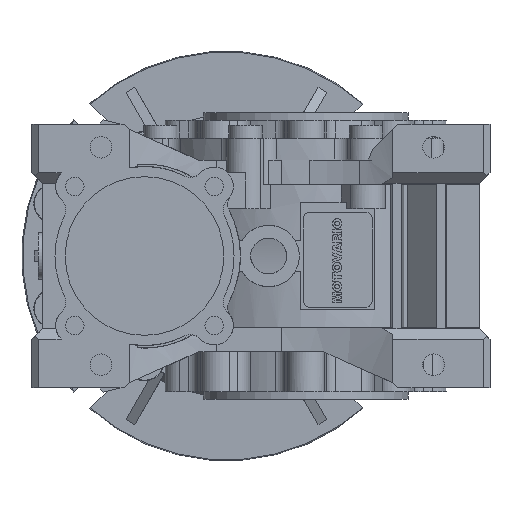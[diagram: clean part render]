
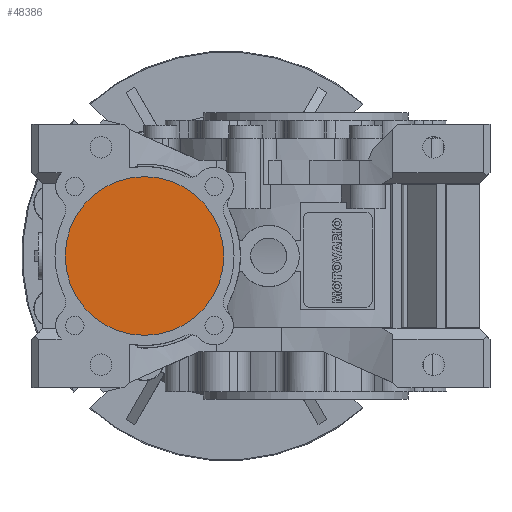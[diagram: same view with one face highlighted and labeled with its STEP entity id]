
A CAD part, left-side view. The second image highlights one B-rep face of the part: STEP entity #48386.
In plain terms, the highlighted planar face has unit normal (-1, 0, 0) as drawn and (0, 0, -1) by its records, which use the part's own axes.
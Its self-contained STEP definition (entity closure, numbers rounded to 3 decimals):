
#752=PLANE('',#51239);
#2198=CIRCLE('',#51238,31.);
#7668=ORIENTED_EDGE('',*,*,#16309,.F.);
#16309=EDGE_CURVE('',#20827,#20827,#2198,.T.);
#20827=VERTEX_POINT('',#69743);
#29590=EDGE_LOOP('',(#7668));
#31902=FACE_BOUND('',#29590,.T.);
#48386=ADVANCED_FACE('',(#31902),#752,.T.);
#51238=AXIS2_PLACEMENT_3D('',#69742,#57974,#57975);
#51239=AXIS2_PLACEMENT_3D('',#69744,#57976,#57977);
#57974=DIRECTION('',(0.,0.,1.));
#57975=DIRECTION('',(1.,0.,0.));
#57976=DIRECTION('',(0.,0.,-1.));
#57977=DIRECTION('',(-1.,0.,0.));
#69742=CARTESIAN_POINT('',(0.,63.,-70.5));
#69743=CARTESIAN_POINT('',(31.,63.,-70.5));
#69744=CARTESIAN_POINT('',(31.,63.,-70.5));
